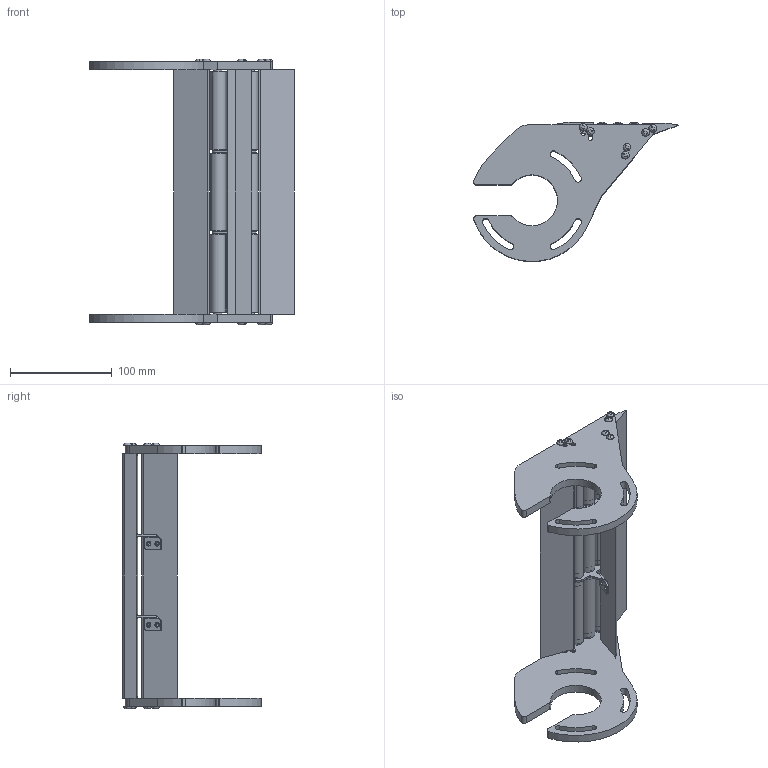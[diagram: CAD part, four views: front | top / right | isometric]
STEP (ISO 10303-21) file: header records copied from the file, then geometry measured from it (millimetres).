
FILE_DESCRIPTION (( 'STEP AP214' ), '1' );
FILE_NAME ('CAB 9 TGRI 2.STEP', '2024-02-27T08:04:15', ( '' ), ( '' ), 'SwSTEP 2.0', 'SolidWorks 2022', '' );
FILE_SCHEMA (( 'AUTOMOTIVE_DESIGN' ));
Length unit declared in the file: millimetre
Products named in the file (15): ROULEMENT TGRI CAB FLEXTOO; Insert M4 TB; ENTRETOISE TGRI CAB-F2-R-HEF; GR CAB 9; TBHC 4X16; SA TGRI; PSTI CAB 2 Symétrie; Galet + roulement CAB 9; CAB 9 TGRI 2; PSTI CAB 2; ENTRETOISE SA TGRI; PT-F2 - CAB 9; SA TGRI + ENTRETOISE; PT-F2 - CAB 9 percé; AXE TGRI CAB 9
Assembly tree (48 placements, depth 3):
  CAB 9 TGRI 2
    PSTI CAB 2 Symétrie
    PSTI CAB 2
    PT-F2 - CAB 9 percé
    PT-F2 - CAB 9  x2
    AXE TGRI CAB 9  x3
    Galet + roulement CAB 9  x9
      GR CAB 9
      ROULEMENT TGRI CAB FLEXTOO
    ENTRETOISE TGRI CAB-F2-R-HEF  x6
    SA TGRI + ENTRETOISE  x2
      SA TGRI
      ENTRETOISE SA TGRI
    TBHC 4X16  x12
    Insert M4 TB  x4
Bounding box: 200.67 x 136.6 x 260.78 mm (x, y, z)
Volume: 490551.9 mm3; surface area: 216768.4 mm2
Topology: 65 solids, 65 shells, 2861 faces, 6203 edges, 3544 vertices
Faces by surface type: cone 1520, cylinder 654, plane 397, torus 254, sphere 26, bspline 10
Entity records: 18586 total; most frequent: CARTESIAN_POINT 3412, DIRECTION 3285, ORIENTED_EDGE 2720, EDGE_CURVE 1360, AXIS2_PLACEMENT_3D 1335, VERTEX_POINT 823, CIRCLE 707, EDGE_LOOP 645
